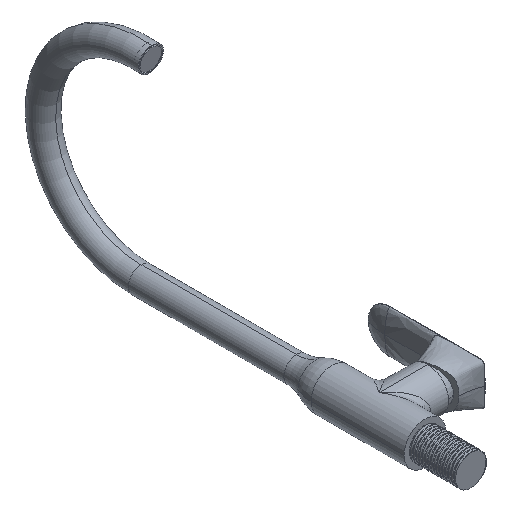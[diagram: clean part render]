
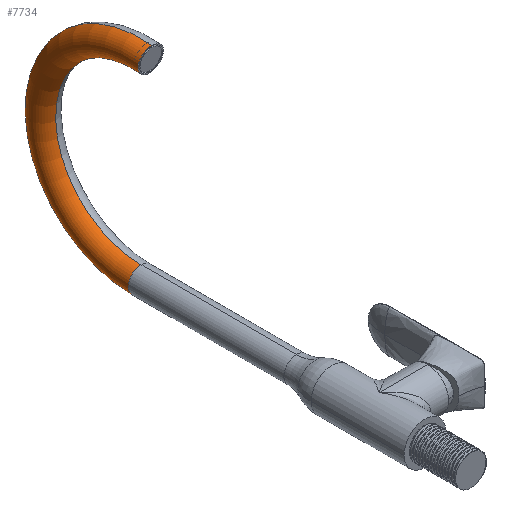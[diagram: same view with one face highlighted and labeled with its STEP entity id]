
A CAD part, isometric view. The second image highlights one B-rep face of the part: STEP entity #7734.
In plain terms, the highlighted toroidal (fillet/blend) face has major radius 100.749 mm and minor radius 13 mm.
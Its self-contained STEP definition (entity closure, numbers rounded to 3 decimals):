
#549 = DIRECTION ( 'NONE',  ( 0., 1., 0. ) ) ;
#569 = AXIS2_PLACEMENT_3D ( 'NONE', #1382, #549, #8100 ) ;
#786 = AXIS2_PLACEMENT_3D ( 'NONE', #6278, #4624, #7889 ) ;
#1382 = CARTESIAN_POINT ( 'NONE',  ( 0., 287., 0. ) ) ;
#1588 = CIRCLE ( 'NONE', #6266, 13. ) ;
#1704 = CARTESIAN_POINT ( 'NONE',  ( 0., 278.29, 188.065 ) ) ;
#1831 = AXIS2_PLACEMENT_3D ( 'NONE', #3452, #2568, #10257 ) ;
#2530 = DIRECTION ( 'NONE',  ( 0., -0.995, -0.099 ) ) ;
#2568 = DIRECTION ( 'NONE',  ( 1., 0., 0. ) ) ;
#2920 = ORIENTED_EDGE ( 'NONE', *, *, #7660, .T. ) ;
#3163 = EDGE_CURVE ( 'NONE', #10948, #4946, #1588, .T. ) ;
#3452 = CARTESIAN_POINT ( 'NONE',  ( 0., 287., 100.749 ) ) ;
#3516 = VERTEX_POINT ( 'NONE', #10569 ) ;
#4089 = EDGE_CURVE ( 'NONE', #3516, #10948, #10843, .T. ) ;
#4624 = DIRECTION ( 'NONE',  ( 1., 0., 0. ) ) ;
#4687 = ORIENTED_EDGE ( 'NONE', *, *, #5873, .T. ) ;
#4744 = CARTESIAN_POINT ( 'NONE',  ( 0., 275.71, 213.937 ) ) ;
#4862 = FACE_OUTER_BOUND ( 'NONE', #5994, .T. ) ;
#4946 = VERTEX_POINT ( 'NONE', #1704 ) ;
#5615 = ORIENTED_EDGE ( 'NONE', *, *, #3163, .F. ) ;
#5873 = EDGE_CURVE ( 'NONE', #6041, #4946, #6060, .T. ) ;
#5994 = EDGE_LOOP ( 'NONE', ( #10914, #2920, #4687, #5615 ) ) ;
#6041 = VERTEX_POINT ( 'NONE', #10531 ) ;
#6060 = CIRCLE ( 'NONE', #786, 87.749 ) ;
#6266 = AXIS2_PLACEMENT_3D ( 'NONE', #9291, #2530, #6743 ) ;
#6278 = CARTESIAN_POINT ( 'NONE',  ( 0., 287., 100.749 ) ) ;
#6515 = DIRECTION ( 'NONE',  ( 1., 0., 0. ) ) ;
#6590 = DIRECTION ( 'NONE',  ( 0., 0., -1. ) ) ;
#6743 = DIRECTION ( 'NONE',  ( -1., 0., 0. ) ) ;
#6987 = TOROIDAL_SURFACE ( 'NONE', #9973, 100.749, 13. ) ;
#7291 = CARTESIAN_POINT ( 'NONE',  ( 0., 287., 100.749 ) ) ;
#7660 = EDGE_CURVE ( 'NONE', #3516, #6041, #10017, .T. ) ;
#7734 = ADVANCED_FACE ( 'NONE', ( #4862 ), #6987, .T. ) ;
#7889 = DIRECTION ( 'NONE',  ( 0., 0., -1. ) ) ;
#8100 = DIRECTION ( 'NONE',  ( -1., 0., 0. ) ) ;
#9291 = CARTESIAN_POINT ( 'NONE',  ( 0., 277., 201.001 ) ) ;
#9973 = AXIS2_PLACEMENT_3D ( 'NONE', #7291, #6515, #6590 ) ;
#10017 = CIRCLE ( 'NONE', #569, 13. ) ;
#10257 = DIRECTION ( 'NONE',  ( 0., 0., -1. ) ) ;
#10531 = CARTESIAN_POINT ( 'NONE',  ( 0., 287., 13. ) ) ;
#10569 = CARTESIAN_POINT ( 'NONE',  ( 0., 287., -13. ) ) ;
#10843 = CIRCLE ( 'NONE', #1831, 113.749 ) ;
#10914 = ORIENTED_EDGE ( 'NONE', *, *, #4089, .F. ) ;
#10948 = VERTEX_POINT ( 'NONE', #4744 ) ;
